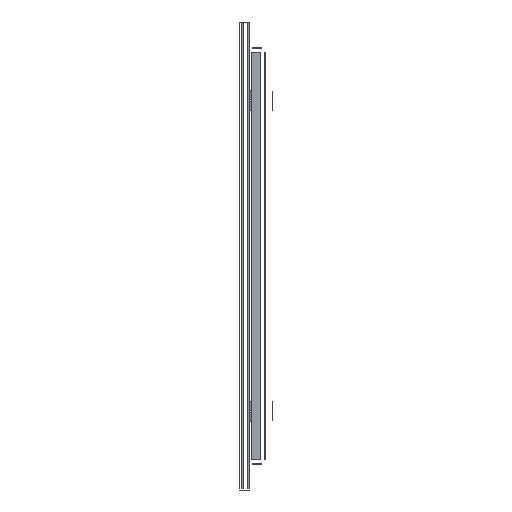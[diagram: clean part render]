
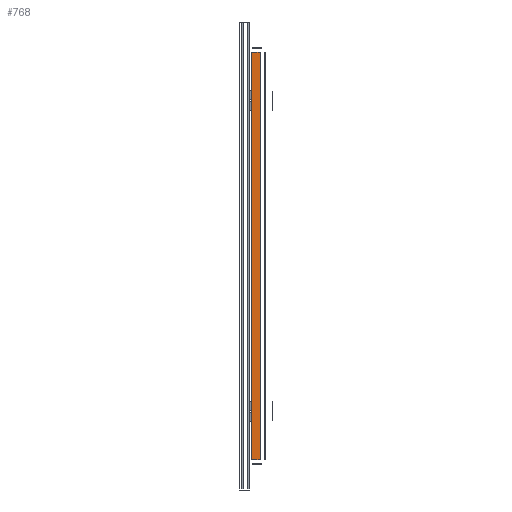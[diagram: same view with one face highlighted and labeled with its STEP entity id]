
A CAD part, left-side view. The second image highlights one B-rep face of the part: STEP entity #768.
In plain terms, the highlighted planar face has unit normal (-1, 0, 0).
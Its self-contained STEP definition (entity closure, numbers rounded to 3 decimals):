
#315=DIRECTION('',(0.,-1.,0.));
#316=VECTOR('',#315,22.457);
#317=CARTESIAN_POINT('',(-22.5,14.06,525.));
#318=LINE('',#317,#316);
#319=DIRECTION('',(0.,0.,-1.));
#320=VECTOR('',#319,1050.);
#321=CARTESIAN_POINT('',(-22.5,-8.397,525.));
#322=LINE('',#321,#320);
#323=DIRECTION('',(0.,1.,0.));
#324=VECTOR('',#323,22.457);
#325=CARTESIAN_POINT('',(-22.5,-8.397,-525.));
#326=LINE('',#325,#324);
#327=DIRECTION('',(0.,0.,1.));
#328=VECTOR('',#327,1050.);
#329=CARTESIAN_POINT('',(-22.5,14.06,-525.));
#330=LINE('',#329,#328);
#429=CARTESIAN_POINT('',(-22.5,-8.397,-525.));
#430=CARTESIAN_POINT('',(-22.5,14.06,-525.));
#431=VERTEX_POINT('',#429);
#432=VERTEX_POINT('',#430);
#457=CARTESIAN_POINT('',(-22.5,-8.397,525.));
#458=CARTESIAN_POINT('',(-22.5,14.06,525.));
#459=VERTEX_POINT('',#457);
#460=VERTEX_POINT('',#458);
#753=CARTESIAN_POINT('',(-22.5,20.,-600.));
#754=DIRECTION('',(-1.,0.,0.));
#755=DIRECTION('',(0.,-1.,0.));
#756=AXIS2_PLACEMENT_3D('',#753,#754,#755);
#757=PLANE('',#756);
#759=ORIENTED_EDGE('',*,*,#758,.T.);
#761=ORIENTED_EDGE('',*,*,#760,.T.);
#763=ORIENTED_EDGE('',*,*,#762,.T.);
#765=ORIENTED_EDGE('',*,*,#764,.T.);
#766=EDGE_LOOP('',(#759,#761,#763,#765));
#767=FACE_OUTER_BOUND('',#766,.F.);
#768=ADVANCED_FACE('',(#767),#757,.T.);
#758=EDGE_CURVE('',#460,#459,#318,.T.);
#760=EDGE_CURVE('',#459,#431,#322,.T.);
#762=EDGE_CURVE('',#431,#432,#326,.T.);
#764=EDGE_CURVE('',#432,#460,#330,.T.);
